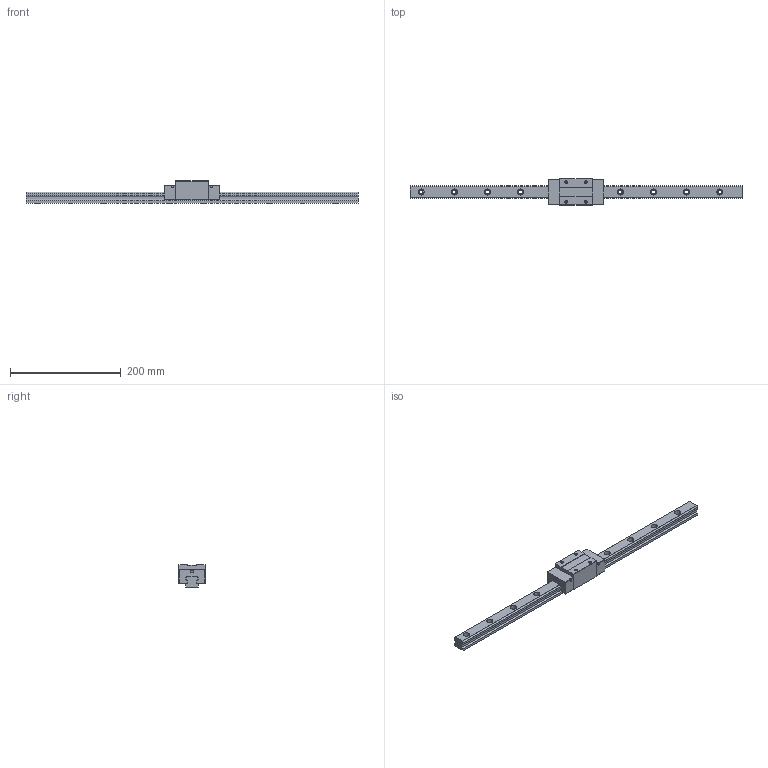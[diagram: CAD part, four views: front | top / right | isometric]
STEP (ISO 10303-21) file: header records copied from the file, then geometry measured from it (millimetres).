
FILE_DESCRIPTION (( 'STEP AP203' ), '1' );
FILE_NAME ('TRH25VN-WZ.STEP', '2024-05-17T01:08:45', ( '' ), ( '' ), 'SwSTEP 2.0', 'SolidWorks 2022', '' );
FILE_SCHEMA (( 'CONFIG_CONTROL_DESIGN' ));
Length unit declared in the file: millimetre
Products named in the file (1): TRH25VN-WZ
Bounding box: 600 x 48 x 40 mm (x, y, z)
Volume: 352564.1 mm3; surface area: 81393.2 mm2
Topology: 2 solids, 2 shells, 200 faces, 520 edges, 336 vertices
Faces by surface type: cylinder 96, plane 88, cone 16
Entity records: 6223 total; most frequent: DIRECTION 1114, CARTESIAN_POINT 1049, ORIENTED_EDGE 1024, EDGE_CURVE 512, AXIS2_PLACEMENT_3D 401, VERTEX_POINT 336, LINE 312, VECTOR 312
